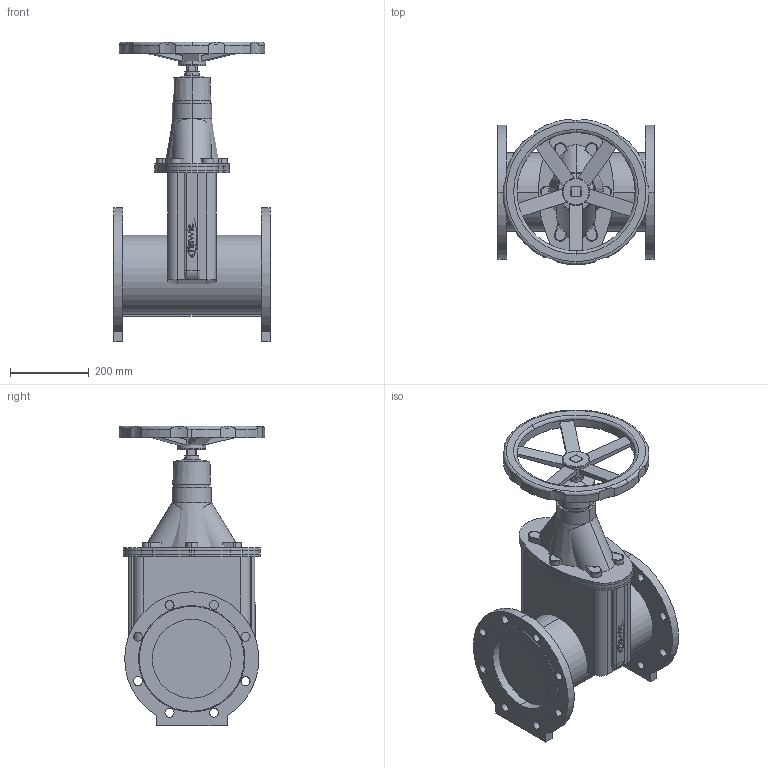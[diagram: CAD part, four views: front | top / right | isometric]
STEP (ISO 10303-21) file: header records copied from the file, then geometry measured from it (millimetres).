
FILE_DESCRIPTION(('STEP AP214'),'1');
FILE_NAME('S:/EK/USER/CAT6/3DHomepage/4700E2/4700E2-PN10-DN200-HANDRAD.STP','2012-04-23T12:31:28',(' '),(' '),'Spatial InterOp 3D',' ',' ');
FILE_SCHEMA(('automotive_design'));
Length unit declared in the file: millimetre
Products named in the file (53): 3D-Objekt
Bounding box: 400 x 368.75 x 760 mm (x, y, z)
Volume: 29394474.1 mm3; surface area: 2008375.9 mm2
Topology: 53 solids, 53 shells, 553 faces, 1321 edges, 882 vertices
Faces by surface type: plane 283, cylinder 244, torus 12, cone 10, bspline 4
Entity records: 22308 total; most frequent: CARTESIAN_POINT 3187, DIRECTION 3073, ORIENTED_EDGE 2642, EDGE_CURVE 1321, AXIS2_PLACEMENT_3D 1160, VERTEX_POINT 882, LINE 753, VECTOR 753
